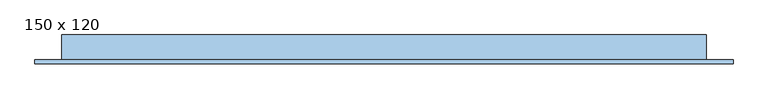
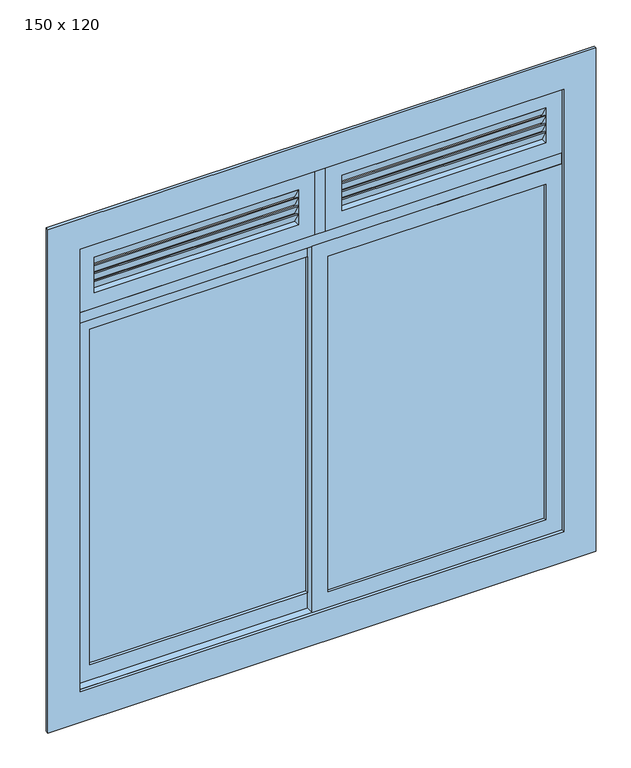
"""IFC4 building model written with IfcOpenShell, lengths in millimetres: window geometry, JANELA COM ESQUADRIA DE CORRER - 2 FOLHAS + BANDEIRA VENEZIANA - 2 FOLHAS : 150 x 120."""

from ifc_helpers import new_model, si_unit, frame, origin, place, context, project, spatial, polyline, outline, extrude, source, transform, mapped, element, save


def window_150_x_120_70a6131e(model_context):
    return source(origin(), model_context, "Body", "SweptSolid", [
        extrude(outline(polyline([(-55.8758395, 2338.3333333), (-75.8758395, 2373.3333333), (-70.8758395, 2373.3333333), (-50.8758395, 2338.3333333), (-55.8758395, 2338.3333333)])), frame((196.9035509, 0.0, 0.0), z_axis=(1.0, 0.0, 0.0), x_axis=(0.0, 1.0, 0.0)), (0.0, 0.0, 1.0), 632.5),
        extrude(outline(polyline([(-55.8758395, 2311.6666667), (-75.8758395, 2346.6666667), (-70.8758395, 2346.6666667), (-50.8758395, 2311.6666667), (-55.8758395, 2311.6666667)])), frame((196.9035509, 0.0, 0.0), z_axis=(1.0, 0.0, 0.0), x_axis=(0.0, 1.0, 0.0)), (0.0, 0.0, 1.0), 632.5),
        extrude(outline(polyline([(-55.8758395, 2365.0), (-75.8758395, 2400.0), (-70.8758395, 2400.0), (-50.8758395, 2365.0), (-55.8758395, 2365.0)])), frame((196.9035509, 0.0, 0.0), z_axis=(1.0, 0.0, 0.0), x_axis=(0.0, 1.0, 0.0)), (0.0, 0.0, 1.0), 632.5),
        extrude(outline(polyline([(-55.8758395, 2285.0), (-75.8758395, 2320.0), (-70.8758395, 2320.0), (-50.8758395, 2285.0), (-55.8758395, 2285.0)])), frame((196.9035509, 0.0, 0.0), z_axis=(1.0, 0.0, 0.0), x_axis=(0.0, 1.0, 0.0)), (0.0, 0.0, 1.0), 632.5),
        extrude(outline(polyline([(2450.0, 879.4035509), (2450.0, 146.9035509), (2235.0, 146.9035509), (2235.0, 879.4035509), (2450.0, 879.4035509)]), holes=[polyline([(2400.0, 829.4035509), (2285.0, 829.4035509), (2285.0, 196.9035509), (2400.0, 196.9035509), (2400.0, 829.4035509)])]), frame((0.0, -75.8758395, 0.0), z_axis=(0.0, 1.0, 0.0), x_axis=(0.0, 0.0, 1.0)), (0.0, 0.0, 1.0), 25.0),
        extrude(outline(polyline([(-55.8758395, 2338.3333333), (-75.8758395, 2373.3333333), (-70.8758395, 2373.3333333), (-50.8758395, 2338.3333333), (-55.8758395, 2338.3333333)])), frame((-570.5964491, 0.0, 0.0), z_axis=(1.0, 0.0, 0.0), x_axis=(0.0, 1.0, 0.0)), (0.0, 0.0, 1.0), 632.5),
        extrude(outline(polyline([(-55.8758395, 2311.6666667), (-75.8758395, 2346.6666667), (-70.8758395, 2346.6666667), (-50.8758395, 2311.6666667), (-55.8758395, 2311.6666667)])), frame((-570.5964491, 0.0, 0.0), z_axis=(1.0, 0.0, 0.0), x_axis=(0.0, 1.0, 0.0)), (0.0, 0.0, 1.0), 632.5),
        extrude(outline(polyline([(-55.8758395, 2365.0), (-75.8758395, 2400.0), (-70.8758395, 2400.0), (-50.8758395, 2365.0), (-55.8758395, 2365.0)])), frame((-570.5964491, 0.0, 0.0), z_axis=(1.0, 0.0, 0.0), x_axis=(0.0, 1.0, 0.0)), (0.0, 0.0, 1.0), 632.5),
        extrude(outline(polyline([(-55.8758395, 2285.0), (-75.8758395, 2320.0), (-70.8758395, 2320.0), (-50.8758395, 2285.0), (-55.8758395, 2285.0)])), frame((-570.5964491, 0.0, 0.0), z_axis=(1.0, 0.0, 0.0), x_axis=(0.0, 1.0, 0.0)), (0.0, 0.0, 1.0), 632.5),
        extrude(outline(polyline([(2450.0, 111.9035509), (2450.0, -620.5964491), (2235.0, -620.5964491), (2235.0, 111.9035509), (2450.0, 111.9035509)]), holes=[polyline([(2400.0, 61.9035509), (2285.0, 61.9035509), (2285.0, -570.5964491), (2400.0, -570.5964491), (2400.0, 61.9035509)])]), frame((0.0, -75.8758395, 0.0), z_axis=(0.0, 1.0, 0.0), x_axis=(0.0, 0.0, 1.0)), (0.0, 0.0, 1.0), 25.0),
        extrude(outline(polyline([(-570.5964491, -35.3758395), (104.4035509, -35.3758395), (104.4035509, -41.3758395), (-570.5964491, -41.3758395), (-570.5964491, -35.3758395)])), frame((0.0, 0.0, 1050.0), z_axis=(0.0, 0.0, 1.0), x_axis=(1.0, 0.0, 0.0)), (0.0, 0.0, 1.0), 1100.0),
        extrude(outline(polyline([(2200.0, -620.5964491), (1000.0, -620.5964491), (1000.0, 154.4035509), (2200.0, 154.4035509), (2200.0, -620.5964491)]), holes=[polyline([(2150.0, -570.5964491), (2150.0, 104.4035509), (1050.0, 104.4035509), (1050.0, -570.5964491), (2150.0, -570.5964491)])]), frame((0.0, -50.8758395, 0.0), z_axis=(0.0, 1.0, 0.0), x_axis=(0.0, 0.0, 1.0)), (0.0, 0.0, 1.0), 25.0),
        extrude(outline(polyline([(829.4035509, -60.3758395), (829.4035509, -66.3758395), (154.4035509, -66.3758395), (154.4035509, -60.3758395), (829.4035509, -60.3758395)])), frame((0.0, 0.0, 1050.0), z_axis=(0.0, 0.0, 1.0), x_axis=(1.0, 0.0, 0.0)), (0.0, 0.0, 1.0), 1100.0),
        extrude(outline(polyline([(2200.0, 879.4035509), (2200.0, 104.4035509), (1000.0, 104.4035509), (1000.0, 879.4035509), (2200.0, 879.4035509)]), holes=[polyline([(2150.0, 829.4035509), (1050.0, 829.4035509), (1050.0, 154.4035509), (2150.0, 154.4035509), (2150.0, 829.4035509)])]), frame((0.0, -75.8758395, 0.0), z_axis=(0.0, 1.0, 0.0), x_axis=(0.0, 0.0, 1.0)), (0.0, 0.0, 1.0), 25.0),
        extrude(outline(polyline([(900.0, -720.5964491), (900.0, 979.4035509), (2550.0, 979.4035509), (2550.0, -720.5964491), (900.0, -720.5964491)]), holes=[polyline([(2450.0, -620.5964491), (2450.0, 879.4035509), (1000.0, 879.4035509), (1000.0, -620.5964491), (2450.0, -620.5964491)])]), frame((0.0, -85.8758395, 0.0), z_axis=(0.0, 1.0, 0.0), x_axis=(0.0, 0.0, 1.0)), (0.0, 0.0, 1.0), 10.0),
        extrude(outline(polyline([(-655.5964491, -15.8758395), (-620.5964491, -15.8758395), (-620.5964491, -75.8758395), (-655.5964491, -75.8758395), (-655.5964491, -15.8758395)])), frame((0.0, 0.0, 1000.0), z_axis=(0.0, 0.0, 1.0), x_axis=(1.0, 0.0, 0.0)), (0.0, 0.0, 1.0), 1450.0),
        extrude(outline(polyline([(879.4035509, -15.8758395), (914.4035509, -15.8758395), (914.4035509, -75.8758395), (879.4035509, -75.8758395), (879.4035509, -15.8758395)])), frame((0.0, 0.0, 1000.0), z_axis=(0.0, 0.0, 1.0), x_axis=(1.0, 0.0, 0.0)), (0.0, 0.0, 1.0), 1450.0),
        extrude(outline(polyline([(-655.5964491, -15.8758395), (914.4035509, -15.8758395), (914.4035509, -75.8758395), (-655.5964491, -75.8758395), (-655.5964491, -15.8758395)])), frame((0.0, 0.0, 965.0), z_axis=(0.0, 0.0, 1.0), x_axis=(1.0, 0.0, 0.0)), (0.0, 0.0, 1.0), 35.0),
        extrude(outline(polyline([(146.9035509, -15.8758395), (146.9035509, -75.8758395), (111.9035509, -75.8758395), (111.9035509, -15.8758395), (146.9035509, -15.8758395)])), frame((0.0, 0.0, 2235.0), z_axis=(0.0, 0.0, 1.0), x_axis=(1.0, 0.0, 0.0)), (0.0, 0.0, 1.0), 215.0),
        extrude(outline(polyline([(-655.5964491, -15.8758395), (914.4035509, -15.8758395), (914.4035509, -75.8758395), (-655.5964491, -75.8758395), (-655.5964491, -15.8758395)])), frame((0.0, 0.0, 2450.0), z_axis=(0.0, 0.0, 1.0), x_axis=(1.0, 0.0, 0.0)), (0.0, 0.0, 1.0), 35.0),
        extrude(outline(polyline([(-620.5964491, -15.8758395), (879.4035509, -15.8758395), (879.4035509, -75.8758395), (-620.5964491, -75.8758395), (-620.5964491, -15.8758395)])), frame((0.0, 0.0, 2200.0), z_axis=(0.0, 0.0, 1.0), x_axis=(1.0, 0.0, 0.0)), (0.0, 0.0, 1.0), 35.0),
    ])


if __name__ == "__main__":
    model = new_model("IFC4")
    model_context = context("Model", 3, world=origin())
    ifc_project = project(units=[si_unit("LENGTHUNIT", "METRE", prefix="MILLI")], contexts=[model_context])
    site = spatial("IfcSite", under=ifc_project)
    building = spatial("IfcBuilding", under=site)
    placement = place(None, origin())
    window_150_x_120_shape = window_150_x_120_70a6131e(model_context)
    element("IfcWindow", 1, ObjectType="JANELA COM ESQUADRIA DE CORRER - 2 FOLHAS + BANDEIRA VENEZIANA - 2 FOLHAS : 150 x 120", at=placement, inside=building, context=model_context, shape_type="MappedRepresentation", body=[
        mapped(window_150_x_120_shape, transform((0.0, 0.0, 0.0), x_axis=(1.0, 0.0, 0.0), y_axis=(0.0, 1.0, 0.0), z_axis=(0.0, 0.0, 1.0))),
    ])
    save(model, "model.ifc")
